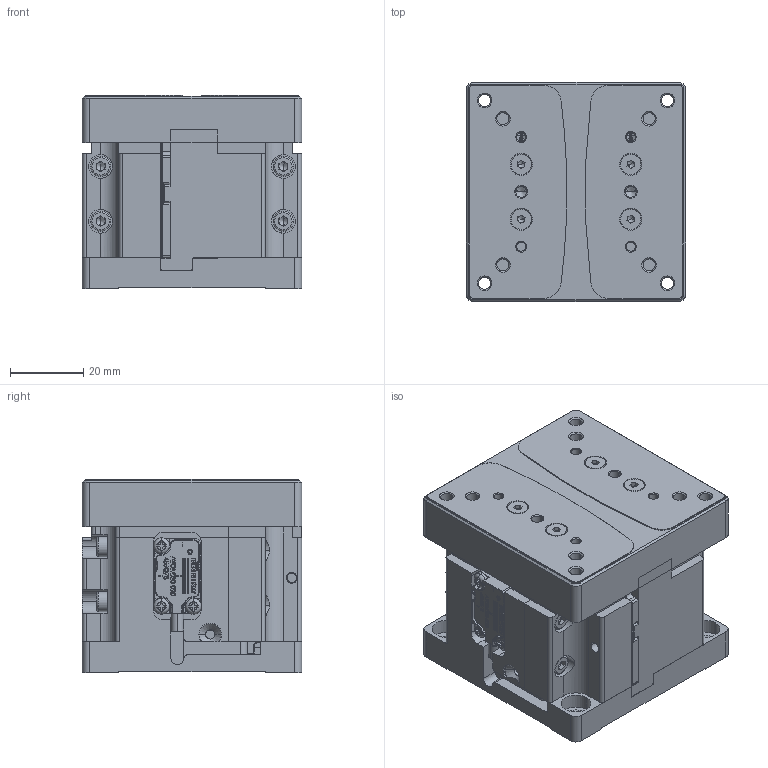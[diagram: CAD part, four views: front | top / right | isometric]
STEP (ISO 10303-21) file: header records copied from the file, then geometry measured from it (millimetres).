
FILE_DESCRIPTION (( 'STEP AP203' ), '1' );
FILE_NAME ('vs-0606-v2_2_jc.STEP', '2023-04-26T05:35:21', ( '微软用户' ), ( '微软中国' ), 'SwSTEP 2.0', 'SolidWorks 2021', '' );
FILE_SCHEMA (( 'CONFIG_CONTROL_DESIGN' ));
Length unit declared in the file: millimetre
Products named in the file (1): vs-0606-v2_2_jc
Bounding box: 60 x 60 x 53 mm (x, y, z)
Volume: 148456.7 mm3; surface area: 67629.8 mm2
Topology: 43 solids, 43 shells, 2244 faces, 5770 edges, 3685 vertices
Faces by surface type: plane 1207, cylinder 585, cone 295, bspline 103, torus 38, sphere 16
Entity records: 72218 total; most frequent: CARTESIAN_POINT 17254, ORIENTED_EDGE 11440, DIRECTION 11254, EDGE_CURVE 5720, AXIS2_PLACEMENT_3D 3789, VERTEX_POINT 3685, VECTOR 3676, LINE 3676
